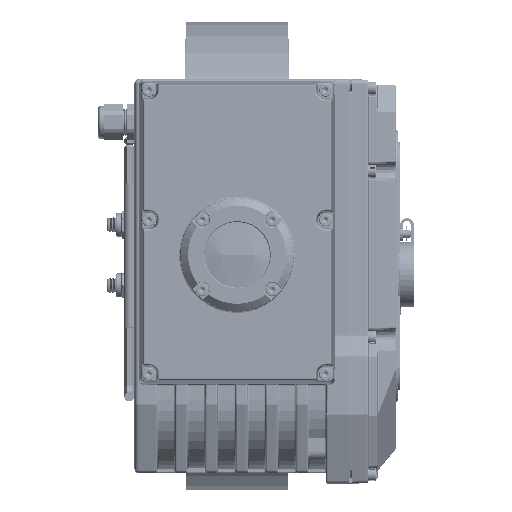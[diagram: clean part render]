
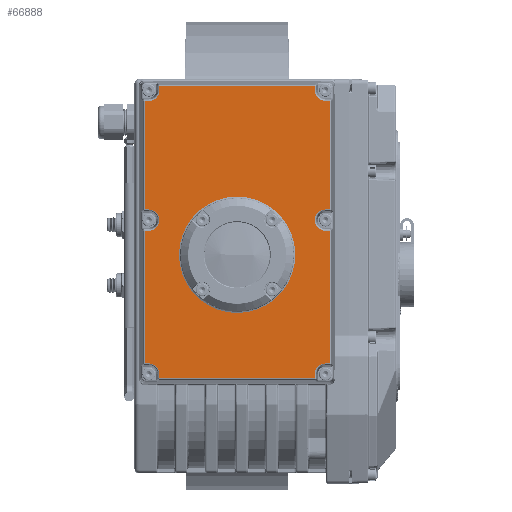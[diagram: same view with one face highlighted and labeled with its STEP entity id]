
A CAD part, top view. The second image highlights one B-rep face of the part: STEP entity #66888.
In plain terms, the highlighted planar face has unit normal (0, 0, 1).
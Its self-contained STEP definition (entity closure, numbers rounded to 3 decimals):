
#66888=ADVANCED_FACE('',(#162330,#162332),#162334,.T.);
#162330=FACE_BOUND('',#162331,.T.);
#162331=EDGE_LOOP('',(#208959,#208960,#208961,#208962,#208963,#208964,#208965,#208966,
#208967,#208968,#208969,#208970,#208971,#208972,#208973,#208974,#208975,#208976,
#208977,#208978,#208979,#208980,#208981,#208982));
#162332=FACE_BOUND('',#162333,.T.);
#162333=EDGE_LOOP('',(#208983));
#162334=PLANE('',#162335);
#162335=AXIS2_PLACEMENT_3D('',#162336,#162337,#162338);
#162336=CARTESIAN_POINT('',(1236.65,-4346.345,169.016));
#162337=DIRECTION('',(0.,0.,1.));
#162338=DIRECTION('',(-1.,0.,0.));
#208959=ORIENTED_EDGE('',*,*,#234305,.T.);
#208960=ORIENTED_EDGE('',*,*,#234300,.T.);
#208961=ORIENTED_EDGE('',*,*,#234349,.T.);
#208962=ORIENTED_EDGE('',*,*,#234202,.T.);
#208963=ORIENTED_EDGE('',*,*,#234199,.T.);
#208964=ORIENTED_EDGE('',*,*,#234194,.T.);
#208965=ORIENTED_EDGE('',*,*,#234352,.T.);
#208966=ORIENTED_EDGE('',*,*,#234216,.T.);
#208967=ORIENTED_EDGE('',*,*,#234218,.T.);
#208968=ORIENTED_EDGE('',*,*,#234222,.T.);
#208969=ORIENTED_EDGE('',*,*,#234348,.T.);
#208970=ORIENTED_EDGE('',*,*,#234237,.T.);
#208971=ORIENTED_EDGE('',*,*,#234240,.T.);
#208972=ORIENTED_EDGE('',*,*,#234243,.T.);
#208973=ORIENTED_EDGE('',*,*,#234356,.T.);
#208974=ORIENTED_EDGE('',*,*,#234259,.T.);
#208975=ORIENTED_EDGE('',*,*,#234262,.T.);
#208976=ORIENTED_EDGE('',*,*,#234265,.T.);
#208977=ORIENTED_EDGE('',*,*,#234354,.T.);
#208978=ORIENTED_EDGE('',*,*,#234280,.T.);
#208979=ORIENTED_EDGE('',*,*,#234283,.T.);
#208980=ORIENTED_EDGE('',*,*,#234286,.T.);
#208981=ORIENTED_EDGE('',*,*,#234346,.T.);
#208982=ORIENTED_EDGE('',*,*,#234308,.T.);
#208983=ORIENTED_EDGE('',*,*,#234175,.T.);
#234175=EDGE_CURVE('',#269206,#269206,#269207,.T.);
#234194=EDGE_CURVE('',#269243,#269240,#269244,.T.);
#234199=EDGE_CURVE('',#269248,#269243,#269252,.T.);
#234202=EDGE_CURVE('',#269253,#269248,#269257,.T.);
#234216=EDGE_CURVE('',#269275,#269279,#269281,.T.);
#234218=EDGE_CURVE('',#269279,#269283,#269284,.T.);
#234222=EDGE_CURVE('',#269283,#269289,#269291,.T.);
#234237=EDGE_CURVE('',#269310,#269314,#269316,.T.);
#234240=EDGE_CURVE('',#269314,#269319,#269321,.T.);
#234243=EDGE_CURVE('',#269319,#269324,#269326,.T.);
#234259=EDGE_CURVE('',#269348,#269352,#269354,.T.);
#234262=EDGE_CURVE('',#269352,#269357,#269359,.T.);
#234265=EDGE_CURVE('',#269357,#269362,#269364,.T.);
#234280=EDGE_CURVE('',#269383,#269387,#269389,.T.);
#234283=EDGE_CURVE('',#269387,#269392,#269394,.T.);
#234286=EDGE_CURVE('',#269392,#269397,#269399,.T.);
#234300=EDGE_CURVE('',#269421,#269418,#269422,.T.);
#234305=EDGE_CURVE('',#269426,#269421,#269430,.T.);
#234308=EDGE_CURVE('',#269431,#269426,#269435,.T.);
#234346=EDGE_CURVE('',#269397,#269431,#269489,.T.);
#234348=EDGE_CURVE('',#269289,#269310,#269491,.T.);
#234349=EDGE_CURVE('',#269418,#269253,#269492,.T.);
#234352=EDGE_CURVE('',#269240,#269275,#269495,.T.);
#234354=EDGE_CURVE('',#269362,#269383,#269497,.T.);
#234356=EDGE_CURVE('',#269324,#269348,#269499,.T.);
#269206=VERTEX_POINT('',#452159);
#269207=CIRCLE('',#452160,38.536);
#269240=VERTEX_POINT('',#452238);
#269243=VERTEX_POINT('',#452247);
#269244=LINE('',#452248,#452249);
#269248=VERTEX_POINT('',#452259);
#269252=CIRCLE('',#452269,7.054);
#269253=VERTEX_POINT('',#452273);
#269257=LINE('',#452282,#452283);
#269275=VERTEX_POINT('',#452328);
#269279=VERTEX_POINT('',#452338);
#269281=LINE('',#452343,#452344);
#269283=VERTEX_POINT('',#452349);
#269284=CIRCLE('',#452350,7.054);
#269289=VERTEX_POINT('',#452415);
#269291=LINE('',#452420,#452421);
#269310=VERTEX_POINT('',#452469);
#269314=VERTEX_POINT('',#452479);
#269316=LINE('',#452484,#452485);
#269319=VERTEX_POINT('',#452491);
#269321=CIRCLE('',#452496,7.054);
#269324=VERTEX_POINT('',#452505);
#269326=LINE('',#452510,#452511);
#269348=VERTEX_POINT('',#452565);
#269352=VERTEX_POINT('',#452575);
#269354=LINE('',#452580,#452581);
#269357=VERTEX_POINT('',#452587);
#269359=CIRCLE('',#452592,7.054);
#269362=VERTEX_POINT('',#452601);
#269364=LINE('',#452606,#452607);
#269383=VERTEX_POINT('',#452655);
#269387=VERTEX_POINT('',#452665);
#269389=LINE('',#452670,#452671);
#269392=VERTEX_POINT('',#452677);
#269394=CIRCLE('',#452682,7.054);
#269397=VERTEX_POINT('',#452691);
#269399=LINE('',#452696,#452697);
#269418=VERTEX_POINT('',#452745);
#269421=VERTEX_POINT('',#452754);
#269422=LINE('',#452755,#452756);
#269426=VERTEX_POINT('',#452766);
#269430=CIRCLE('',#452776,7.054);
#269431=VERTEX_POINT('',#452780);
#269435=LINE('',#452789,#452790);
#269489=LINE('',#452929,#452930);
#269491=LINE('',#452935,#452936);
#269492=LINE('',#452938,#452939);
#269495=LINE('',#452947,#452948);
#269497=LINE('',#452953,#452954);
#269499=LINE('',#452959,#452960);
#452159=CARTESIAN_POINT('',(1338.549,-4460.208,169.016));
#452160=AXIS2_PLACEMENT_3D('',#452161,#452162,#452163);
#452161=CARTESIAN_POINT('',(1300.013,-4460.208,169.016));
#452162=DIRECTION('',(0.,0.,-1.));
#452163=DIRECTION('',(1.,0.,0.));
#452238=CARTESIAN_POINT('',(1361.322,-4532.154,169.016));
#452247=CARTESIAN_POINT('',(1358.513,-4532.154,169.016));
#452248=CARTESIAN_POINT('',(1358.513,-4532.154,169.016));
#452249=VECTOR('',#452250,1.);
#452250=DIRECTION('',(1.,0.,0.));
#452259=CARTESIAN_POINT('',(1351.459,-4539.208,169.016));
#452269=AXIS2_PLACEMENT_3D('',#452270,#452271,#452272);
#452270=CARTESIAN_POINT('',(1358.513,-4539.208,169.016));
#452271=DIRECTION('',(0.,0.,-1.));
#452272=DIRECTION('',(-1.,0.,0.));
#452273=CARTESIAN_POINT('',(1351.459,-4542.017,169.016));
#452282=CARTESIAN_POINT('',(1351.459,-4542.017,169.016));
#452283=VECTOR('',#452284,1.);
#452284=DIRECTION('',(0.,1.,0.));
#452328=CARTESIAN_POINT('',(1361.322,-4444.262,169.016));
#452338=CARTESIAN_POINT('',(1358.513,-4444.262,169.016));
#452343=CARTESIAN_POINT('',(1361.322,-4444.262,169.016));
#452344=VECTOR('',#452345,1.);
#452345=DIRECTION('',(-1.,0.,0.));
#452349=CARTESIAN_POINT('',(1358.513,-4430.154,169.016));
#452350=AXIS2_PLACEMENT_3D('',#452351,#452352,#452353);
#452351=CARTESIAN_POINT('',(1358.513,-4437.208,169.016));
#452352=DIRECTION('',(0.,0.,-1.));
#452353=DIRECTION('',(0.,-1.,0.));
#452415=CARTESIAN_POINT('',(1361.322,-4430.154,169.016));
#452420=CARTESIAN_POINT('',(1358.513,-4430.154,169.016));
#452421=VECTOR('',#452422,1.);
#452422=DIRECTION('',(1.,0.,0.));
#452469=CARTESIAN_POINT('',(1361.322,-4358.262,169.016));
#452479=CARTESIAN_POINT('',(1358.513,-4358.262,169.016));
#452484=CARTESIAN_POINT('',(1361.322,-4358.262,169.016));
#452485=VECTOR('',#452486,1.);
#452486=DIRECTION('',(-1.,0.,0.));
#452491=CARTESIAN_POINT('',(1351.459,-4351.208,169.016));
#452496=AXIS2_PLACEMENT_3D('',#452497,#452498,#452499);
#452497=CARTESIAN_POINT('',(1358.513,-4351.208,169.016));
#452498=DIRECTION('',(0.,0.,-1.));
#452499=DIRECTION('',(0.,-1.,0.));
#452505=CARTESIAN_POINT('',(1351.459,-4348.399,169.016));
#452510=CARTESIAN_POINT('',(1351.459,-4351.208,169.016));
#452511=VECTOR('',#452512,1.);
#452512=DIRECTION('',(0.,1.,0.));
#452565=CARTESIAN_POINT('',(1248.567,-4348.399,169.016));
#452575=CARTESIAN_POINT('',(1248.567,-4351.208,169.016));
#452580=CARTESIAN_POINT('',(1248.567,-4348.399,169.016));
#452581=VECTOR('',#452582,1.);
#452582=DIRECTION('',(0.,-1.,0.));
#452587=CARTESIAN_POINT('',(1241.513,-4358.262,169.016));
#452592=AXIS2_PLACEMENT_3D('',#452593,#452594,#452595);
#452593=CARTESIAN_POINT('',(1241.513,-4351.208,169.016));
#452594=DIRECTION('',(0.,0.,-1.));
#452595=DIRECTION('',(1.,0.,0.));
#452601=CARTESIAN_POINT('',(1238.704,-4358.262,169.016));
#452606=CARTESIAN_POINT('',(1241.513,-4358.262,169.016));
#452607=VECTOR('',#452608,1.);
#452608=DIRECTION('',(-1.,0.,0.));
#452655=CARTESIAN_POINT('',(1238.704,-4430.154,169.016));
#452665=CARTESIAN_POINT('',(1241.513,-4430.154,169.016));
#452670=CARTESIAN_POINT('',(1238.704,-4430.154,169.016));
#452671=VECTOR('',#452672,1.);
#452672=DIRECTION('',(1.,0.,0.));
#452677=CARTESIAN_POINT('',(1241.513,-4444.262,169.016));
#452682=AXIS2_PLACEMENT_3D('',#452683,#452684,#452685);
#452683=CARTESIAN_POINT('',(1241.513,-4437.208,169.016));
#452684=DIRECTION('',(0.,0.,-1.));
#452685=DIRECTION('',(0.,1.,0.));
#452691=CARTESIAN_POINT('',(1238.704,-4444.262,169.016));
#452696=CARTESIAN_POINT('',(1241.513,-4444.262,169.016));
#452697=VECTOR('',#452698,1.);
#452698=DIRECTION('',(-1.,0.,0.));
#452745=CARTESIAN_POINT('',(1248.567,-4542.017,169.016));
#452754=CARTESIAN_POINT('',(1248.567,-4539.208,169.016));
#452755=CARTESIAN_POINT('',(1248.567,-4539.208,169.016));
#452756=VECTOR('',#452757,1.);
#452757=DIRECTION('',(0.,-1.,0.));
#452766=CARTESIAN_POINT('',(1241.513,-4532.154,169.016));
#452776=AXIS2_PLACEMENT_3D('',#452777,#452778,#452779);
#452777=CARTESIAN_POINT('',(1241.513,-4539.208,169.016));
#452778=DIRECTION('',(0.,0.,-1.));
#452779=DIRECTION('',(0.,1.,0.));
#452780=CARTESIAN_POINT('',(1238.704,-4532.154,169.016));
#452789=CARTESIAN_POINT('',(1238.704,-4532.154,169.016));
#452790=VECTOR('',#452791,1.);
#452791=DIRECTION('',(1.,0.,0.));
#452929=CARTESIAN_POINT('',(1238.704,-4444.262,169.016));
#452930=VECTOR('',#452931,1.);
#452931=DIRECTION('',(0.,-1.,0.));
#452935=CARTESIAN_POINT('',(1361.322,-4430.154,169.016));
#452936=VECTOR('',#452937,1.);
#452937=DIRECTION('',(0.,1.,0.));
#452938=CARTESIAN_POINT('',(1248.567,-4542.017,169.016));
#452939=VECTOR('',#452940,1.);
#452940=DIRECTION('',(1.,0.,0.));
#452947=CARTESIAN_POINT('',(1361.322,-4532.154,169.016));
#452948=VECTOR('',#452949,1.);
#452949=DIRECTION('',(0.,1.,0.));
#452953=CARTESIAN_POINT('',(1238.704,-4358.262,169.016));
#452954=VECTOR('',#452955,1.);
#452955=DIRECTION('',(0.,-1.,0.));
#452959=CARTESIAN_POINT('',(1351.459,-4348.399,169.016));
#452960=VECTOR('',#452961,1.);
#452961=DIRECTION('',(-1.,0.,0.));
